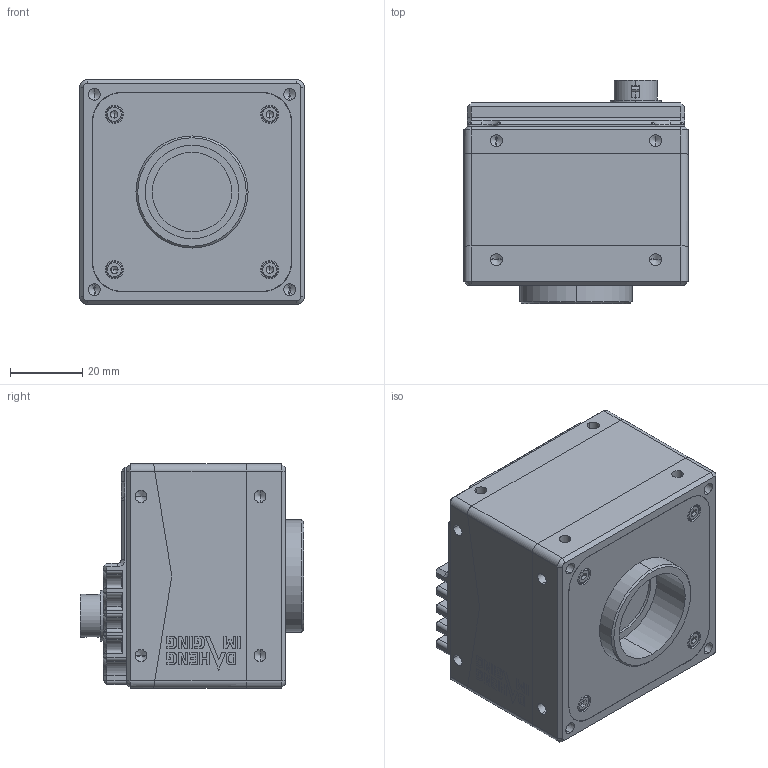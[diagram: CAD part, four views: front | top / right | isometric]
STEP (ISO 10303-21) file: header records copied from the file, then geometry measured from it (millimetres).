
FILE_DESCRIPTION (( 'STEP AP203' ), '1' );
FILE_NAME ('mars_u3_user_s1.0.1.STEP', '2019-09-26T08:17:33', ( '' ), ( '' ), 'SwSTEP 2.0', 'SolidWorks 2016', '' );
FILE_SCHEMA (( 'CONFIG_CONTROL_DESIGN' ));
Products named in the file (1): mars_u3_user_s1.0.1
Bounding box: 62 x 61.8 x 62 mm (x, y, z)
Volume: 164800.7 mm3; surface area: 57126.2 mm2
Topology: 9 solids, 36 shells, 2183 faces, 5863 edges, 3696 vertices
Faces by surface type: plane 1269, cylinder 672, cone 198, bspline 28, torus 16
Entity records: 68013 total; most frequent: CARTESIAN_POINT 13240, ORIENTED_EDGE 11486, DIRECTION 11266, EDGE_CURVE 5743, LINE 3978, VECTOR 3978, VERTEX_POINT 3696, AXIS2_PLACEMENT_3D 3644
